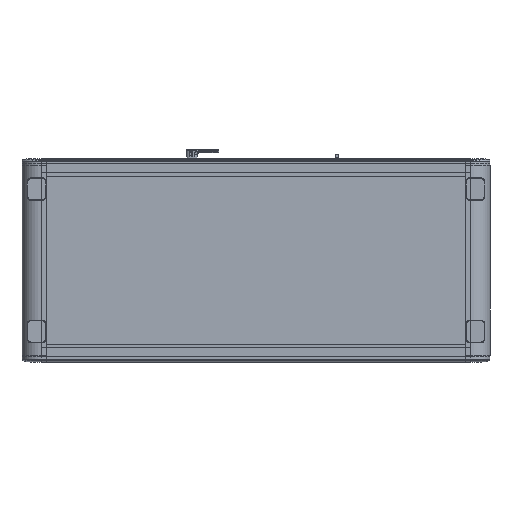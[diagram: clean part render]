
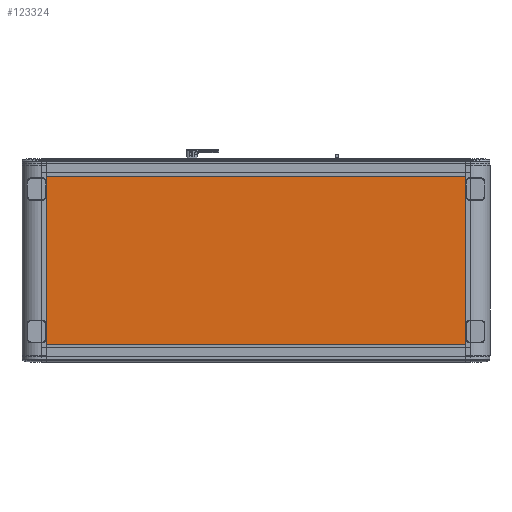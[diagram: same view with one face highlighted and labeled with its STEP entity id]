
A CAD part, front view. The second image highlights one B-rep face of the part: STEP entity #123324.
In plain terms, the highlighted planar face has unit normal (0, -1, 0).
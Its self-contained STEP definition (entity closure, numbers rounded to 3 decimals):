
#1684 = CARTESIAN_POINT ( 'NONE',  ( -1055., -1137.5, 429.508 ) ) ;
#7708 = CARTESIAN_POINT ( 'NONE',  ( -1055., -1137.5, -429.508 ) ) ;
#17385 = LINE ( 'NONE', #80673, #94705 ) ;
#18953 = EDGE_CURVE ( 'NONE', #52527, #77912, #17385, .T. ) ;
#26096 = CARTESIAN_POINT ( 'NONE',  ( 0., -1137.5, 429.508 ) ) ;
#28752 = DIRECTION ( 'NONE',  ( 1., 0., 0. ) ) ;
#31968 = CARTESIAN_POINT ( 'NONE',  ( -1055., -1137.5, 0. ) ) ;
#40691 = VECTOR ( 'NONE', #28752, 1000. ) ;
#46030 = VECTOR ( 'NONE', #51802, 1000. ) ;
#46223 = PLANE ( 'NONE',  #107606 ) ;
#47611 = EDGE_CURVE ( 'NONE', #60278, #77912, #59613, .T. ) ;
#50117 = ORIENTED_EDGE ( 'NONE', *, *, #85921, .T. ) ;
#50548 = EDGE_LOOP ( 'NONE', ( #98857, #96639, #50117, #105267 ) ) ;
#51802 = DIRECTION ( 'NONE',  ( 0., 0., -1. ) ) ;
#52527 = VERTEX_POINT ( 'NONE', #101742 ) ;
#59613 = LINE ( 'NONE', #68824, #40691 ) ;
#60278 = VERTEX_POINT ( 'NONE', #7708 ) ;
#64857 = DIRECTION ( 'NONE',  ( 1., 0., 0. ) ) ;
#68824 = CARTESIAN_POINT ( 'NONE',  ( 0., -1137.5, -429.508 ) ) ;
#72406 = VERTEX_POINT ( 'NONE', #1684 ) ;
#77912 = VERTEX_POINT ( 'NONE', #99544 ) ;
#78473 = FACE_OUTER_BOUND ( 'NONE', #50548, .T. ) ;
#80673 = CARTESIAN_POINT ( 'NONE',  ( 1055., -1137.5, 0. ) ) ;
#85901 = DIRECTION ( 'NONE',  ( 0., -1., 0. ) ) ;
#85921 = EDGE_CURVE ( 'NONE', #72406, #60278, #99672, .T. ) ;
#87219 = CARTESIAN_POINT ( 'NONE',  ( 0., -1137.5, 413.508 ) ) ;
#94705 = VECTOR ( 'NONE', #110702, 1000. ) ;
#96076 = DIRECTION ( 'NONE',  ( 0., 0., 1. ) ) ;
#96639 = ORIENTED_EDGE ( 'NONE', *, *, #128359, .F. ) ;
#98857 = ORIENTED_EDGE ( 'NONE', *, *, #18953, .F. ) ;
#99544 = CARTESIAN_POINT ( 'NONE',  ( 1055., -1137.5, -429.508 ) ) ;
#99672 = LINE ( 'NONE', #31968, #46030 ) ;
#101742 = CARTESIAN_POINT ( 'NONE',  ( 1055., -1137.5, 429.508 ) ) ;
#105267 = ORIENTED_EDGE ( 'NONE', *, *, #47611, .T. ) ;
#107606 = AXIS2_PLACEMENT_3D ( 'NONE', #87219, #85901, #96076 ) ;
#110702 = DIRECTION ( 'NONE',  ( 0., 0., -1. ) ) ;
#117227 = LINE ( 'NONE', #26096, #121934 ) ;
#121934 = VECTOR ( 'NONE', #64857, 1000. ) ;
#123324 = ADVANCED_FACE ( 'NONE', ( #78473 ), #46223, .T. ) ;
#128359 = EDGE_CURVE ( 'NONE', #72406, #52527, #117227, .T. ) ;
